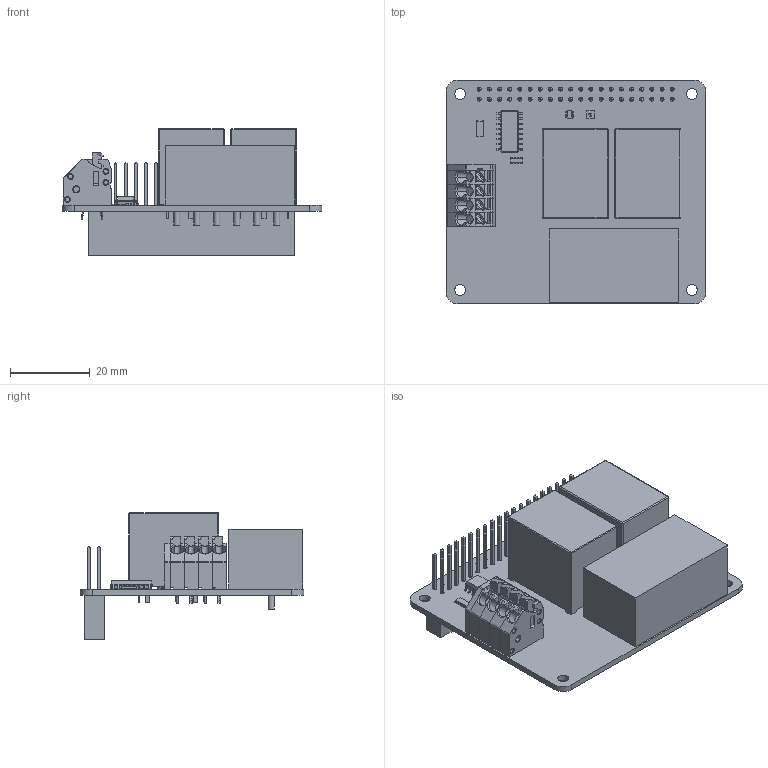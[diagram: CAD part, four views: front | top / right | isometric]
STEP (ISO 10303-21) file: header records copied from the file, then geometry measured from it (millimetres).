
FILE_DESCRIPTION(('FreeCAD Model'),'2;1');
FILE_NAME('Open CASCADE Shape Model','2026-04-26T18:08:23',(''),(''), 'Open CASCADE STEP processor 7.8','FreeCAD','Unknown');
FILE_SCHEMA(('AUTOMOTIVE_DESIGN { 1 0 10303 214 1 1 1 1 }'));
Length unit declared in the file: millimetre
Products named in the file (3): Unnamed; qPIO-Light_PCB; Fusion
Assembly tree (2 placements, depth 2):
  Unnamed
    qPIO-Light_PCB
    Fusion
Bounding box: 65 x 56 x 31.65 mm (x, y, z)
Volume: 32934.7 mm3; surface area: 22326.3 mm2
Topology: 89 solids, 89 shells, 2377 faces, 5839 edges, 3738 vertices
Faces by surface type: plane 1777, cylinder 462, cone 98, bspline 32, sphere 8
Full cylindrical faces by diameter (mm): 0.104 x1, 0.326 x1, 1 x44, 1.1 x16, 1.14 x16, 1.15 x4, 1.3 x16, 1.47 x4, 1.5 x6, 1.6 x4, 1.65 x1, 2.7 x4
Entity records: 71073 total; most frequent: CARTESIAN_POINT 13480, ORIENTED_EDGE 11662, DIRECTION 11492, EDGE_CURVE 5831, LINE 4548, VECTOR 4548, VERTEX_POINT 3738, AXIS2_PLACEMENT_3D 3472
